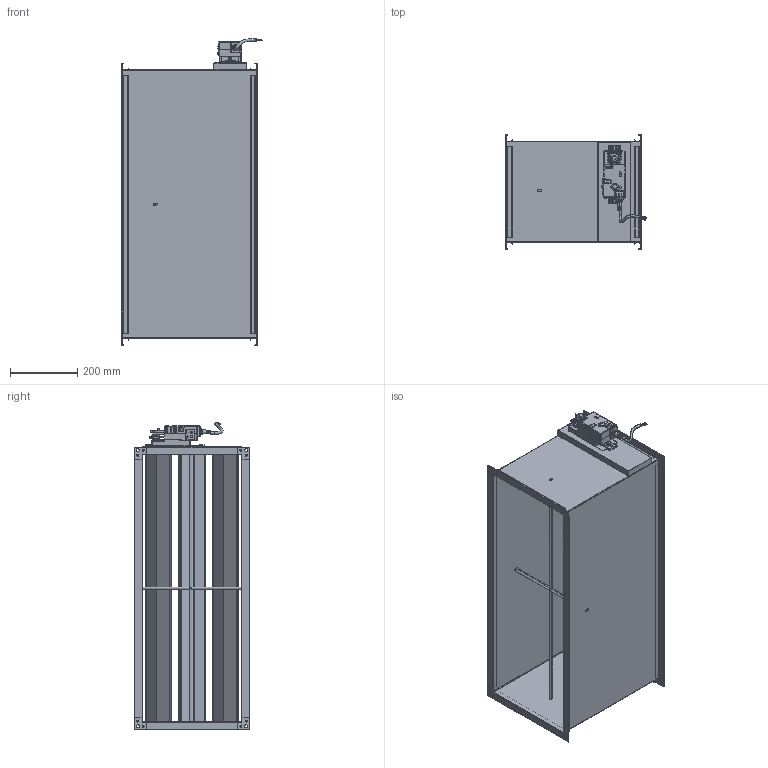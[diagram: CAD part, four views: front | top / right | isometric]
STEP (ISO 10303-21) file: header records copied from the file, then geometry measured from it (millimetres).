
FILE_DESCRIPTION (( 'STEP AP214' ), '1' );
FILE_NAME ('VAV-S800300.STEP', '2025-05-08T11:47:24', ( '' ), ( '' ), 'SwSTEP 2.0', 'SolidWorks 2025', '' );
FILE_SCHEMA (( 'AUTOMOTIVE_DESIGN' ));
Length unit declared in the file: millimetre
Products named in the file (1): VAV-S800300
Bounding box: 419.97 x 341 x 913.68 mm (x, y, z)
Surface area: 3243675.5 mm2 (no closed solid volume)
Topology: 0 solids, 48 shells, 2058 faces, 5351 edges, 3399 vertices
Faces by surface type: plane 1525, cylinder 480, bspline 24, sphere 18, cone 10, torus 1
Full cylindrical faces by diameter (mm): 1 x4, 6 x17, 8 x1, 9 x8, 11 x1, 20 x1, 21 x2
Entity records: 90349 total; most frequent: CARTESIAN_POINT 41115, ORIENTED_EDGE 10491, DIRECTION 6673, EDGE_CURVE 5269, VERTEX_POINT 3373, B_SPLINE_CURVE_WITH_KNOTS 3154, AXIS2_PLACEMENT_3D 2547, EDGE_LOOP 2259
